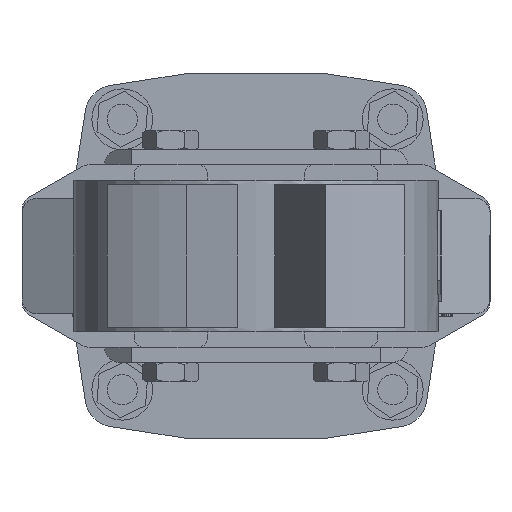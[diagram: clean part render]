
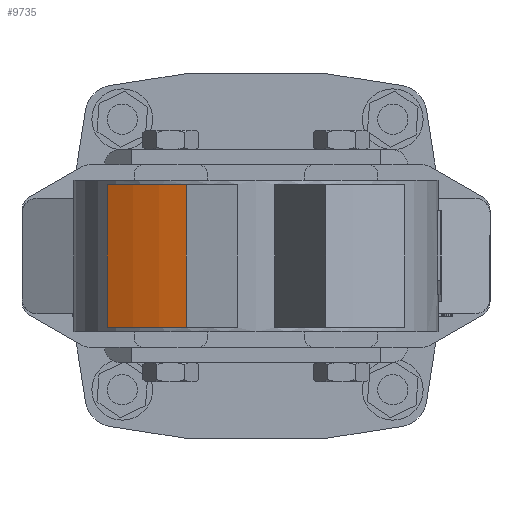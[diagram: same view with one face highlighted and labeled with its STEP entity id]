
A CAD part, front view. The second image highlights one B-rep face of the part: STEP entity #9735.
In plain terms, the highlighted cylindrical face has radius 95 mm (diameter 190 mm), a partial arc.
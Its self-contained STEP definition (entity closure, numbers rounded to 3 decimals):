
#9356 = EDGE_CURVE ( 'NONE', #9357, #9358, #28643, .T. ) ;
#9357 = VERTEX_POINT ( 'NONE', #28702 ) ;
#9358 = VERTEX_POINT ( 'NONE', #28701 ) ;
#9368 = EDGE_CURVE ( 'NONE', #9369, #9370, #28685, .T. ) ;
#9369 = VERTEX_POINT ( 'NONE', #28680 ) ;
#9370 = VERTEX_POINT ( 'NONE', #28679 ) ;
#9735 = ADVANCED_FACE ( 'NONE', ( #29240 ), #29239, .T. ) ;
#9736 = EDGE_LOOP ( 'NONE', ( #9737, #9738, #9740, #9741 ) ) ;
#9737 = ORIENTED_EDGE ( 'NONE', *, *, #9368, .F. ) ;
#9738 = ORIENTED_EDGE ( 'NONE', *, *, #9739, .F. ) ;
#9739 = EDGE_CURVE ( 'NONE', #9357, #9369, #29300, .T. ) ;
#9740 = ORIENTED_EDGE ( 'NONE', *, *, #9356, .T. ) ;
#9741 = ORIENTED_EDGE ( 'NONE', *, *, #9742, .T. ) ;
#9742 = EDGE_CURVE ( 'NONE', #9358, #9370, #29296, .T. ) ;
#28642 = CARTESIAN_POINT ( 'NONE',  ( 0., 0., 23.5 ) ) ;
#28643 = CIRCLE ( 'NONE', #28705, 95. ) ;
#28679 = CARTESIAN_POINT ( 'NONE',  ( -48.892, -81.453, -23.5 ) ) ;
#28680 = CARTESIAN_POINT ( 'NONE',  ( -23.024, -92.168, -23.5 ) ) ;
#28681 = DIRECTION ( 'NONE',  ( 1., 0., 0. ) ) ;
#28682 = DIRECTION ( 'NONE',  ( 0., 0., -1. ) ) ;
#28683 = CARTESIAN_POINT ( 'NONE',  ( 0., 0., -23.5 ) ) ;
#28684 = AXIS2_PLACEMENT_3D ( 'NONE', #28683, #28682, #28681 ) ;
#28685 = CIRCLE ( 'NONE', #28684, 95. ) ;
#28701 = CARTESIAN_POINT ( 'NONE',  ( -48.892, -81.453, 23.5 ) ) ;
#28702 = CARTESIAN_POINT ( 'NONE',  ( -23.024, -92.168, 23.5 ) ) ;
#28703 = DIRECTION ( 'NONE',  ( 1., 0., 0. ) ) ;
#28704 = DIRECTION ( 'NONE',  ( 0., 0., -1. ) ) ;
#28705 = AXIS2_PLACEMENT_3D ( 'NONE', #28642, #28704, #28703 ) ;
#29238 = AXIS2_PLACEMENT_3D ( 'NONE', #29243, #29302, #29301 ) ;
#29239 = CYLINDRICAL_SURFACE ( 'NONE', #29238, 95. ) ;
#29240 = FACE_OUTER_BOUND ( 'NONE', #9736, .T. ) ;
#29243 = CARTESIAN_POINT ( 'NONE',  ( 0., 0., 23.5 ) ) ;
#29293 = DIRECTION ( 'NONE',  ( 0., 0., -1. ) ) ;
#29294 = VECTOR ( 'NONE', #29293, 1000. ) ;
#29295 = CARTESIAN_POINT ( 'NONE',  ( -48.892, -81.453, 23.5 ) ) ;
#29296 = LINE ( 'NONE', #29295, #29294 ) ;
#29297 = DIRECTION ( 'NONE',  ( 0., 0., -1. ) ) ;
#29298 = VECTOR ( 'NONE', #29297, 1000. ) ;
#29299 = CARTESIAN_POINT ( 'NONE',  ( -23.024, -92.168, 23.5 ) ) ;
#29300 = LINE ( 'NONE', #29299, #29298 ) ;
#29301 = DIRECTION ( 'NONE',  ( -1., 0., 0. ) ) ;
#29302 = DIRECTION ( 'NONE',  ( 0., 0., -1. ) ) ;
